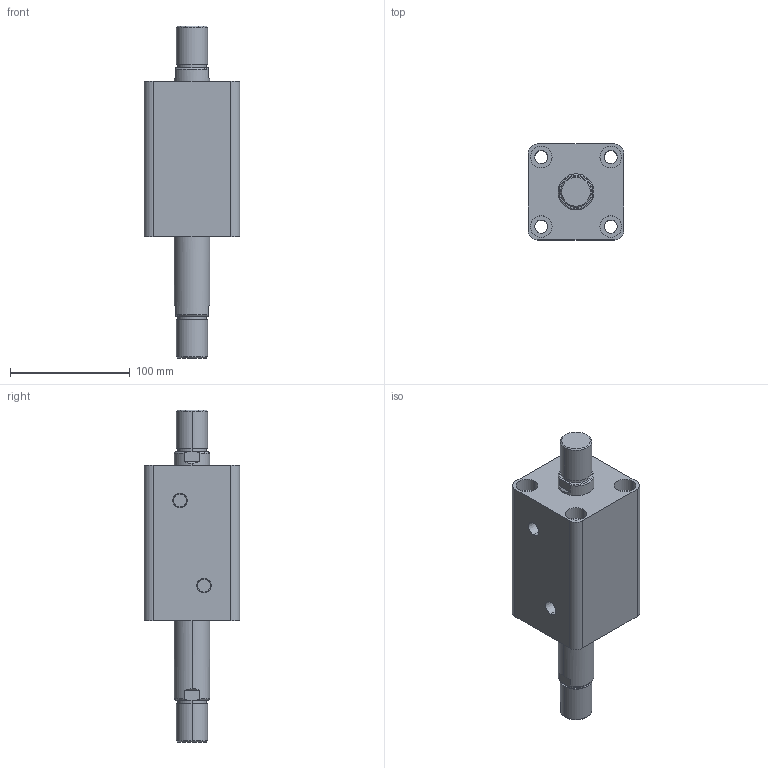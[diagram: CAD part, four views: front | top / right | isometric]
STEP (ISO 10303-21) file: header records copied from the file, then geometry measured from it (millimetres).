
FILE_DESCRIPTION (( 'STEP AP203' ), '1' );
FILE_NAME ('HTB-SW50-55W.STEP', '2019-10-07T09:22:08', ( '微软用户' ), ( '微软中国' ), 'SwSTEP 2.0', 'SolidWorks 2012', '' );
FILE_SCHEMA (( 'CONFIG_CONTROL_DESIGN' ));
Length unit declared in the file: millimetre
Products named in the file (3): HTB-SW50-55W; HTB-SW50-55W活塞杆; HTB-SW50-55掛极
Assembly tree (2 placements, depth 2):
  HTB-SW50-55W
    HTB-SW50-55掛极
    HTB-SW50-55W活塞杆
Bounding box: 80 x 80 x 277 mm (x, y, z)
Volume: 780794.9 mm3; surface area: 121001.4 mm2
Topology: 2 solids, 2 shells, 108 faces, 240 edges, 156 vertices
Faces by surface type: cylinder 52, plane 36, torus 12, cone 8
Entity records: 3449 total; most frequent: CARTESIAN_POINT 629, DIRECTION 586, ORIENTED_EDGE 480, AXIS2_PLACEMENT_3D 249, EDGE_CURVE 240, VERTEX_POINT 156, EDGE_LOOP 138, CIRCLE 136
